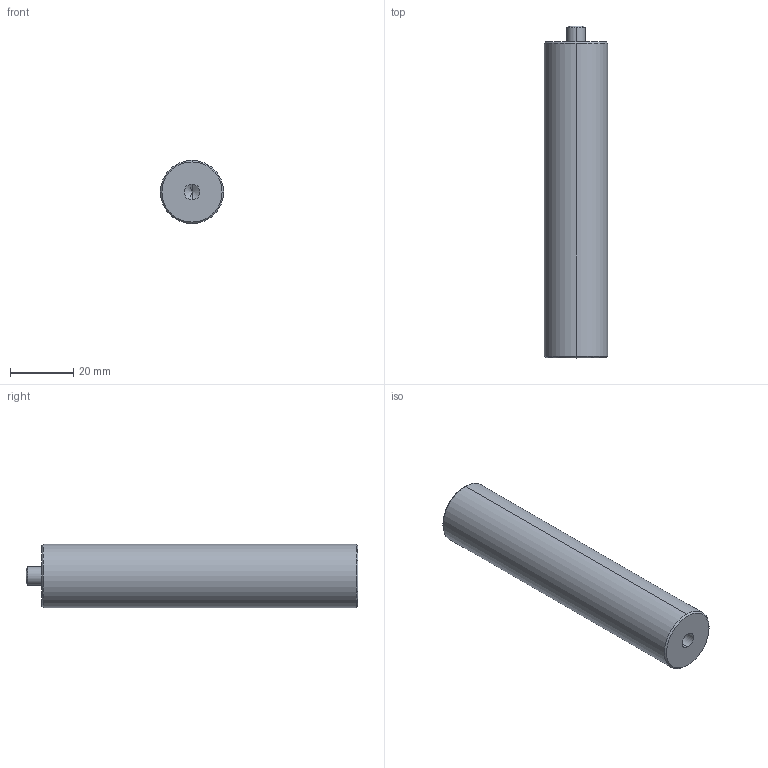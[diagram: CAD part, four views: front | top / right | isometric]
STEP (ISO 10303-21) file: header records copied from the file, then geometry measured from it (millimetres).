
FILE_DESCRIPTION (( 'STEP AP203' ), '1' );
FILE_NAME ('(STEP)M-PDJ20-100.STEP', '2020-04-01T09:30:37', ( '' ), ( '' ), 'SwSTEP 2.0', 'SolidWorks 2019', '' );
FILE_SCHEMA (( 'CONFIG_CONTROL_DESIGN' ));
Length unit declared in the file: millimetre
Products named in the file (1): (STEP)M-PDJ20-100
Bounding box: 20 x 105 x 20 mm (x, y, z)
Volume: 31313.8 mm3; surface area: 7138.5 mm2
Topology: 1 solids, 1 shells, 17 faces, 34 edges, 19 vertices
Faces by surface type: cone 8, cylinder 6, plane 3
Entity records: 505 total; most frequent: DIRECTION 86, CARTESIAN_POINT 69, ORIENTED_EDGE 64, AXIS2_PLACEMENT_3D 36, EDGE_CURVE 32, EDGE_LOOP 19, VERTEX_POINT 19, CIRCLE 18
